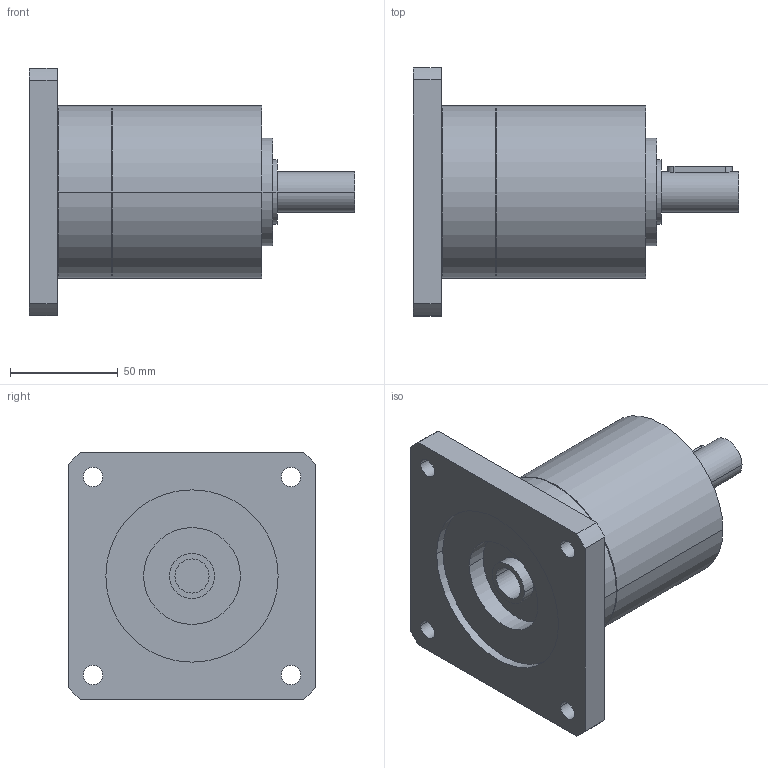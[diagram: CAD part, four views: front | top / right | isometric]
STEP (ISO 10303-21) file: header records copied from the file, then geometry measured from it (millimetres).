
FILE_DESCRIPTION(('CoCreate Modeling STEP Export'),'2;1');
FILE_NAME('GPR100_ig-3-4-5-6_19_B14_15.87_P30.stp','2014-08-26T10:07:56',(''),(''),'CoCreate Modeling STEP processor for AP214 (Solid Model)','CoCreate Modeling 16.00C 25-Feb-2009 (C) Parametric Technology GmbH','');
FILE_SCHEMA(('AUTOMOTIVE_DESIGN { 1 0 10303 214 1 1 1 1 }'));
Length unit declared in the file: millimetre
Products named in the file (2): GPR100_ig-3-4-5-6_19_B14_15.87_P30
Assembly tree (1 placements, depth 2):
  GPR100_ig-3-4-5-6_19_B14_15.87_P30
    GPR100_ig-3-4-5-6_19_B14_15.87_P30
Bounding box: 151 x 115 x 115 mm (x, y, z)
Volume: 625616.2 mm3; surface area: 66537.4 mm2
Topology: 1 solids, 1 shells, 70 faces, 180 edges, 124 vertices
Faces by surface type: cylinder 42, plane 22, cone 6
Entity records: 1899 total; most frequent: ORIENTED_EDGE 356, CARTESIAN_POINT 352, DIRECTION 262, EDGE_CURVE 178, VERTEX_POINT 124, AXIS2_PLACEMENT_3D 98, EDGE_LOOP 92, FACE_OUTER_BOUND 70
